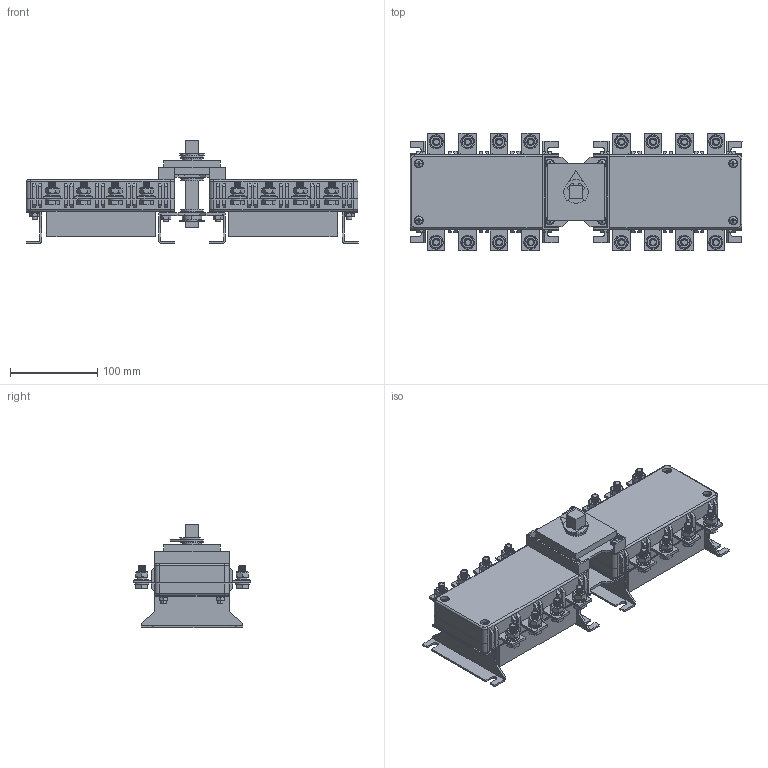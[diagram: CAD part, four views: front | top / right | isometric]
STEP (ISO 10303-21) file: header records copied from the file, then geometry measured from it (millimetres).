
FILE_DESCRIPTION((''),'2;1');
FILE_NAME('125-4S_ASM','2021-05-07T',('wangpeng'),(''),'PRO/ENGINEER BY PARAMETRIC TECHNOLOGY CORPORATION, 2009460','PRO/ENGINEER BY PARAMETRIC TECHNOLOGY CORPORATION, 2009460','');
FILE_SCHEMA(('AUTOMOTIVE_DESIGN { 1 0 10303 214 1 1 1 1 }'));
Length unit declared in the file: millimetre
Products named in the file (21): SB-125-4S; ZB-125-4S; DB-125-4S; XB-125-4S; ZCB-125-4S; YB-125-4S; CT-125-4S; PDQ8; TDQ8; 0LS8; 0LMM8; PDQ6; 0LSM6; LMM6; LDM6; ZSJNH40; FKSNH40; ZSJTNH40; ZZ-125-4S; DQM8; 125-4S_ASM
Assembly tree (146 placements, depth 2):
  125-4S_ASM
    SB-125-4S  x2
    ZB-125-4S  x2
    DB-125-4S  x4
    XB-125-4S  x2
    ZCB-125-4S  x2
    YB-125-4S  x2
    CT-125-4S  x8
    PDQ8  x32
    TDQ8  x16
    0LS8  x16
    0LMM8  x16
    PDQ6  x14
    0LSM6  x4
    LMM6  x8
    LDM6  x10
    ZSJNH40
    FKSNH40  x3
    ZSJTNH40
    ZZ-125-4S
    DQM8  x2
Bounding box: 380.01 x 135.03 x 118 mm (x, y, z)
Volume: 1913998 mm3; surface area: 475308.5 mm2
Topology: 146 solids, 146 shells, 2868 faces, 7661 edges, 5152 vertices
Faces by surface type: plane 1613, cylinder 703, cone 284, bspline 192, torus 48, sphere 28
Entity records: 27738 total; most frequent: CARTESIAN_POINT 8374, DIRECTION 3623, ORIENTED_EDGE 3550, EDGE_CURVE 1775, VECTOR 1309, LINE 1309, VERTEX_POINT 1179, AXIS2_PLACEMENT_3D 1157
